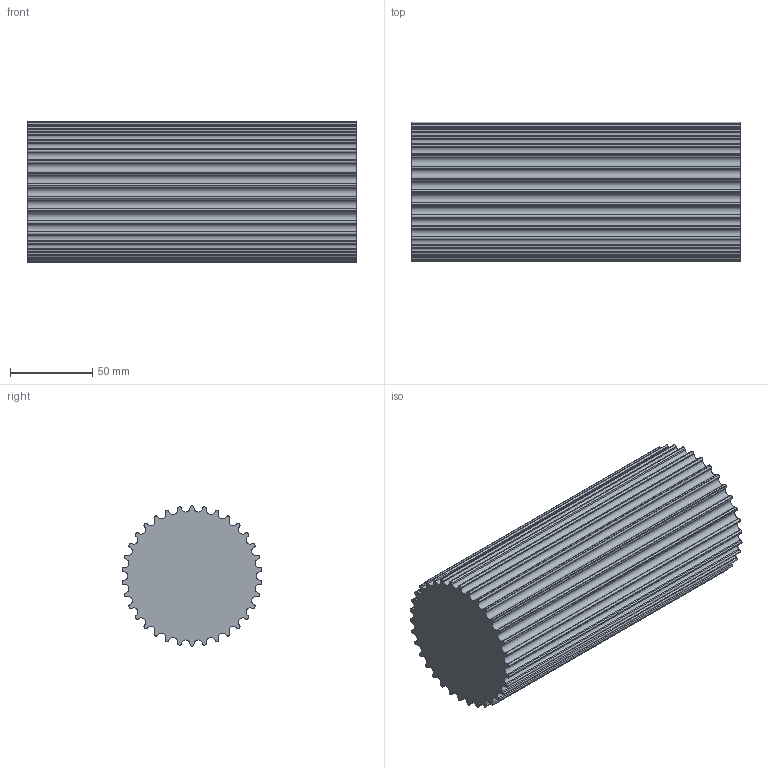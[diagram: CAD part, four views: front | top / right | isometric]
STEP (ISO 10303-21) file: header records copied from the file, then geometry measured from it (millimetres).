
FILE_DESCRIPTION( ( 'STEP AP203' ), '1' );
FILE_NAME( 'C:/Users/Stangenbergd/Desktop/17493401.stp', '2020-08-15T09:48:03', ( 'License CC BY-ND 4.0' ), ( 'CADENAS' ), ' ', 'PARTsolutions', ' ' );
FILE_SCHEMA( ( 'CONFIG_CONTROL_DESIGN' ) );
Length unit declared in the file: millimetre
Products named in the file (1): _17493401
Bounding box: 200 x 84.87 x 85.21 mm (x, y, z)
Volume: 1028315.2 mm3; surface area: 88641.2 mm2
Topology: 1 solids, 1 shells, 206 faces, 612 edges, 408 vertices
Faces by surface type: cylinder 136, plane 70
Entity records: 7072 total; most frequent: DIRECTION 1298, CARTESIAN_POINT 1227, ORIENTED_EDGE 1224, EDGE_CURVE 612, AXIS2_PLACEMENT_3D 479, VERTEX_POINT 408, LINE 340, VECTOR 340
